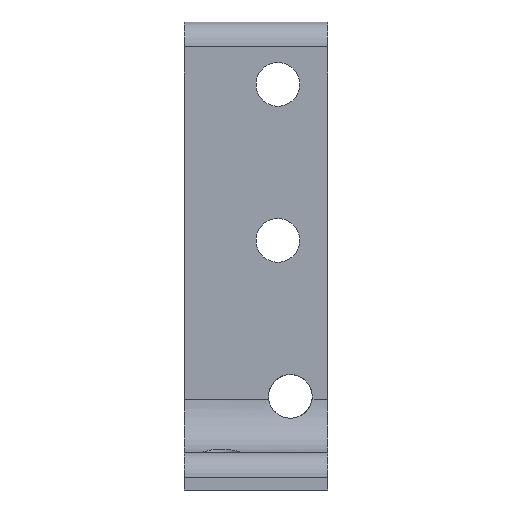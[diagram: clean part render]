
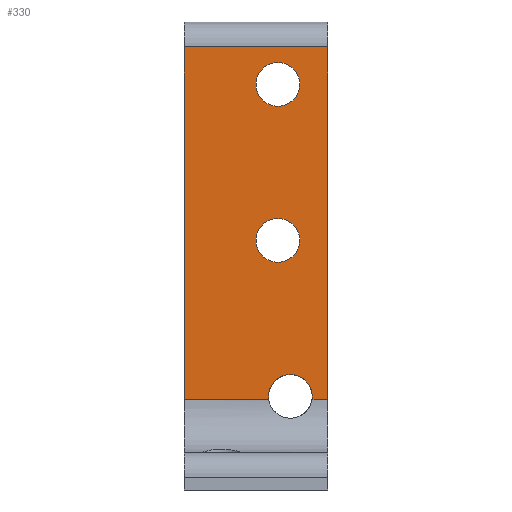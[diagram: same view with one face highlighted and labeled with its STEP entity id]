
A CAD part, front view. The second image highlights one B-rep face of the part: STEP entity #330.
In plain terms, the highlighted planar face has unit normal (0, -1, 0).
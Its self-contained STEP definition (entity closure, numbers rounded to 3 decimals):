
#31=LINE('',#496,#54);
#32=LINE('',#501,#55);
#33=LINE('',#503,#56);
#34=LINE('',#505,#57);
#35=LINE('',#507,#58);
#54=VECTOR('',#403,1000.);
#55=VECTOR('',#406,1000.);
#56=VECTOR('',#407,1000.);
#57=VECTOR('',#408,1000.);
#58=VECTOR('',#409,1000.);
#77=ORIENTED_EDGE('',*,*,#163,.T.);
#78=ORIENTED_EDGE('',*,*,#164,.T.);
#79=ORIENTED_EDGE('',*,*,#165,.T.);
#80=ORIENTED_EDGE('',*,*,#166,.T.);
#81=ORIENTED_EDGE('',*,*,#167,.T.);
#82=ORIENTED_EDGE('',*,*,#168,.F.);
#83=ORIENTED_EDGE('',*,*,#169,.T.);
#84=ORIENTED_EDGE('',*,*,#170,.T.);
#163=EDGE_CURVE('',#206,#206,#238,.T.);
#164=EDGE_CURVE('',#207,#207,#239,.T.);
#165=EDGE_CURVE('',#208,#209,#31,.F.);
#166=EDGE_CURVE('',#209,#210,#240,.T.);
#167=EDGE_CURVE('',#210,#211,#32,.F.);
#168=EDGE_CURVE('',#212,#211,#33,.T.);
#169=EDGE_CURVE('',#212,#213,#34,.T.);
#170=EDGE_CURVE('',#213,#208,#35,.T.);
#206=VERTEX_POINT('',#493);
#207=VERTEX_POINT('',#495);
#208=VERTEX_POINT('',#497);
#209=VERTEX_POINT('',#498);
#210=VERTEX_POINT('',#500);
#211=VERTEX_POINT('',#502);
#212=VERTEX_POINT('',#504);
#213=VERTEX_POINT('',#506);
#238=CIRCLE('',#361,3.5);
#239=CIRCLE('',#362,3.5);
#240=CIRCLE('',#363,3.5);
#256=EDGE_LOOP('',(#77));
#257=EDGE_LOOP('',(#78));
#258=EDGE_LOOP('',(#79,#80,#81,#82,#83,#84));
#289=FACE_BOUND('',#256,.T.);
#290=FACE_BOUND('',#257,.T.);
#291=FACE_BOUND('',#258,.T.);
#322=PLANE('',#360);
#330=ADVANCED_FACE('',(#289,#290,#291),#322,.F.);
#360=AXIS2_PLACEMENT_3D('',#491,#397,#398);
#361=AXIS2_PLACEMENT_3D('',#492,#399,#400);
#362=AXIS2_PLACEMENT_3D('',#494,#401,#402);
#363=AXIS2_PLACEMENT_3D('',#499,#404,#405);
#397=DIRECTION('',(0.,1.,0.));
#398=DIRECTION('',(0.,0.,1.));
#399=DIRECTION('',(0.,1.,0.));
#400=DIRECTION('',(0.,0.,1.));
#401=DIRECTION('',(0.,1.,0.));
#402=DIRECTION('',(0.,0.,1.));
#403=DIRECTION('',(-1.,0.,0.));
#404=DIRECTION('',(0.,1.,0.));
#405=DIRECTION('',(0.,0.,1.));
#406=DIRECTION('',(-1.,0.,0.));
#407=DIRECTION('',(0.,0.,-1.));
#408=DIRECTION('',(-1.,0.,0.));
#409=DIRECTION('',(0.,0.,-1.));
#491=CARTESIAN_POINT('',(11.5,-6.,75.));
#492=CARTESIAN_POINT('',(3.5,-6.,40.));
#493=CARTESIAN_POINT('',(3.5,-6.,43.5));
#494=CARTESIAN_POINT('',(3.5,-6.,65.));
#495=CARTESIAN_POINT('',(3.5,-6.,68.5));
#496=CARTESIAN_POINT('',(11.5,-6.,14.5));
#497=CARTESIAN_POINT('',(-11.5,-6.,14.5));
#498=CARTESIAN_POINT('',(2.036,-6.,14.5));
#499=CARTESIAN_POINT('',(5.5,-6.,15.));
#500=CARTESIAN_POINT('',(8.964,-6.,14.5));
#501=CARTESIAN_POINT('',(11.5,-6.,14.5));
#502=CARTESIAN_POINT('',(11.5,-6.,14.5));
#503=CARTESIAN_POINT('',(11.5,-6.,75.));
#504=CARTESIAN_POINT('',(11.5,-6.,71.));
#505=CARTESIAN_POINT('',(11.5,-6.,71.));
#506=CARTESIAN_POINT('',(-11.5,-6.,71.));
#507=CARTESIAN_POINT('',(-11.5,-6.,75.));
